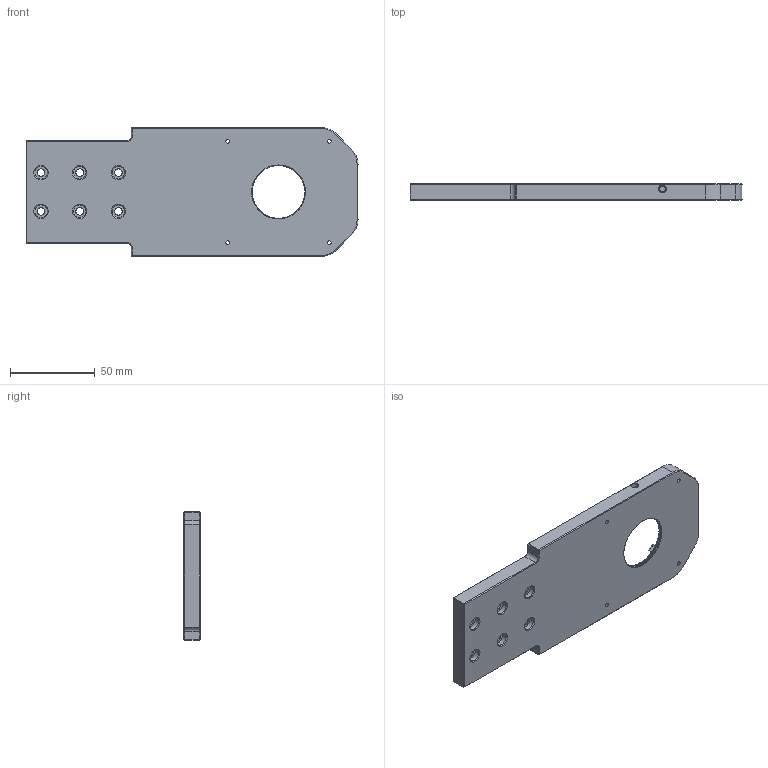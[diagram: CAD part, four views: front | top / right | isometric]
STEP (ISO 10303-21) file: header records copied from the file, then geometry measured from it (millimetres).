
FILE_DESCRIPTION((''),'2;1');
FILE_NAME('LMA95-D1_8B','2024-07-11T15:22:25',('R&D'),(''),'CREO PARAMETRIC BY PTC INC, 2021063','CREO PARAMETRIC BY PTC INC, 2021063','');
FILE_SCHEMA(('CONFIG_CONTROL_DESIGN'));
Length unit declared in the file: millimetre
Products named in the file (1): LMA95-D1_8B
Bounding box: 196.22 x 9.53 x 76.2 mm (x, y, z)
Volume: 109259.8 mm3; surface area: 33512.1 mm2
Topology: 1 solids, 1 shells, 212 faces, 528 edges, 332 vertices
Faces by surface type: cylinder 89, plane 63, cone 41, bspline 19
Entity records: 9463 total; most frequent: CARTESIAN_POINT 4429, ORIENTED_EDGE 1056, DIRECTION 997, EDGE_CURVE 528, AXIS2_PLACEMENT_3D 374, VERTEX_POINT 332, EDGE_LOOP 250, VECTOR 249
